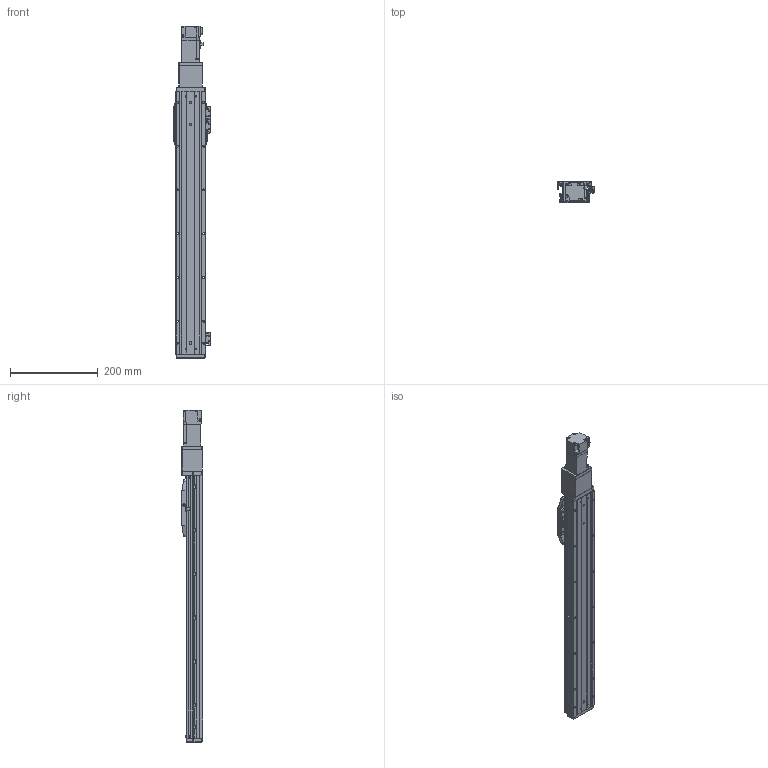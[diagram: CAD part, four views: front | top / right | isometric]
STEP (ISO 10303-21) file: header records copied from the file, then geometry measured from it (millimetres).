
FILE_DESCRIPTION (( 'STEP AP214' ), '1' );
FILE_NAME ('CTHA60-450-BC-M10-C4L.step', '2022-03-19T06:10:19', ( '微软用户' ), ( '微软中国' ), 'SwSTEP 2.0', 'SolidWorks 2020', '' );
FILE_SCHEMA (( 'AUTOMOTIVE_DESIGN' ));
Length unit declared in the file: millimetre
Products named in the file (19): GBT77-2000 M3×3; CTHA60-016; CTHA60-006; CTHA60-001_600; CTHA60-031; GB¨uT 70.2-M3¡Á6_M3¡Á6; CTHA60-021; GBT 70.1-M3℅6; CTHA60-027; HG-KR13（三菱）; CTHA60-004; CTHA60-450-BC-M10-C4L; EE_SX911P_R; GBT 70.1-M4×16; GBT 70.3-M3℅6; CTHA60-013; CTHA60-002; CTHA60-005; CTHA60-017
Assembly tree (57 placements, depth 2):
  CTHA60-450-BC-M10-C4L
    CTHA60-001_600
    CTHA60-004
    CTHA60-005
    GB¨uT 70.2-M3¡Á6_M3¡Á6  x10
    EE_SX911P_R  x3
    CTHA60-017  x3
    CTHA60-021  x2
    GBT 70.1-M4×16  x10
    GBT77-2000 M3×3  x6
    GBT 70.1-M3℅6  x6
    GBT 70.3-M3℅6  x6
    CTHA60-016  x2
    CTHA60-027
    CTHA60-013
    CTHA60-006
    HG-KR13（三菱）
    CTHA60-002
    CTHA60-031
Bounding box: 83.12 x 48 x 758.6 mm (x, y, z)
Volume: 1248097.5 mm3; surface area: 350003.5 mm2
Topology: 59 solids, 59 shells, 2455 faces, 5853 edges, 3587 vertices
Faces by surface type: plane 1426, cylinder 549, cone 360, torus 96, sphere 24
Entity records: 39110 total; most frequent: CARTESIAN_POINT 6592, DIRECTION 6492, ORIENTED_EDGE 6286, EDGE_CURVE 3143, LINE 2316, VECTOR 2316, AXIS2_PLACEMENT_3D 2088, VERTEX_POINT 1984
